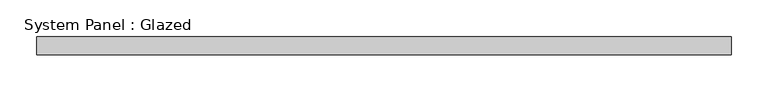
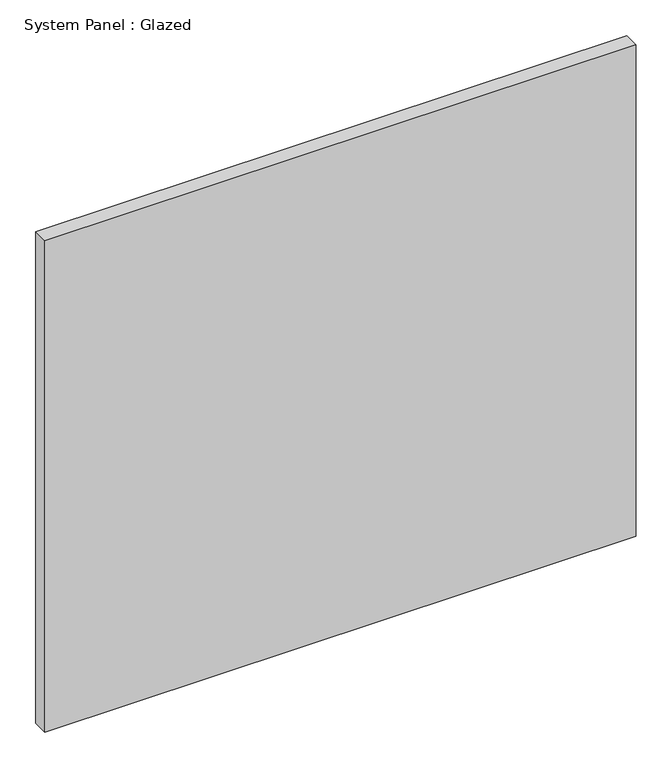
"""IFC4 building model written with IfcOpenShell, lengths in millimetres: plate geometry, System Panel : Glazed."""

from ifc_helpers import new_model, si_unit, origin, origin_with_axes, place, context, project, spatial, polyline, outline, extrude, source, transform, mapped, element, save


def system_panel_glazed_252945b7(model_context):
    return source(origin(), model_context, "Body", "SweptSolid", [
        extrude(outline(polyline([(475.0, 24.5), (-475.0, 24.5), (-475.0, 49.5), (475.0, 49.5), (475.0, 24.5)])), origin_with_axes(), (0.0, 0.0, 1.0), 834.5604964),
    ])


if __name__ == "__main__":
    model = new_model("IFC4")
    model_context = context("Model", 3, world=origin())
    ifc_project = project(units=[si_unit("LENGTHUNIT", "METRE", prefix="MILLI")], contexts=[model_context])
    site = spatial("IfcSite", under=ifc_project)
    building = spatial("IfcBuilding", under=site)
    placement = place(None, origin())
    system_panel_glazed_shape = system_panel_glazed_252945b7(model_context)
    element("IfcPlate", 1, ObjectType="System Panel : Glazed", at=placement, inside=building, context=model_context, shape_type="MappedRepresentation", body=[
        mapped(system_panel_glazed_shape, transform((0.0, 0.0, 0.0), x_axis=(1.0, 0.0, 0.0), y_axis=(0.0, 1.0, 0.0), z_axis=(0.0, 0.0, 1.0))),
    ])
    save(model, "model.ifc")
